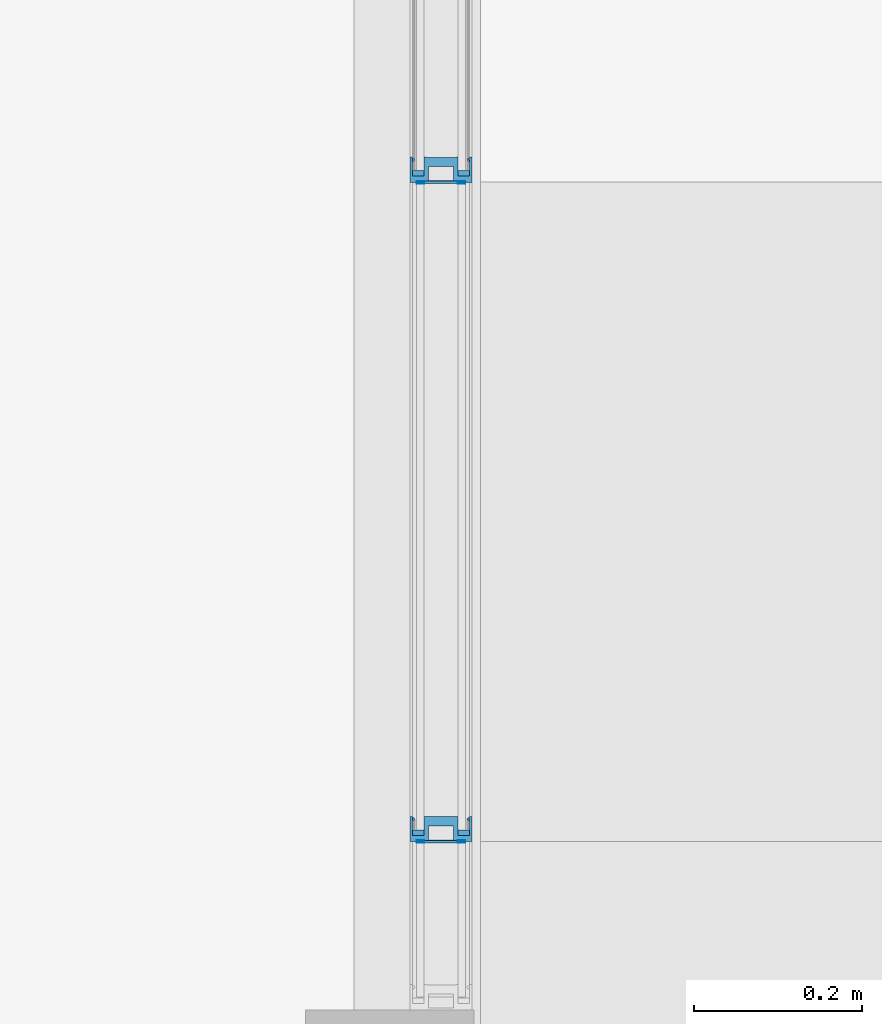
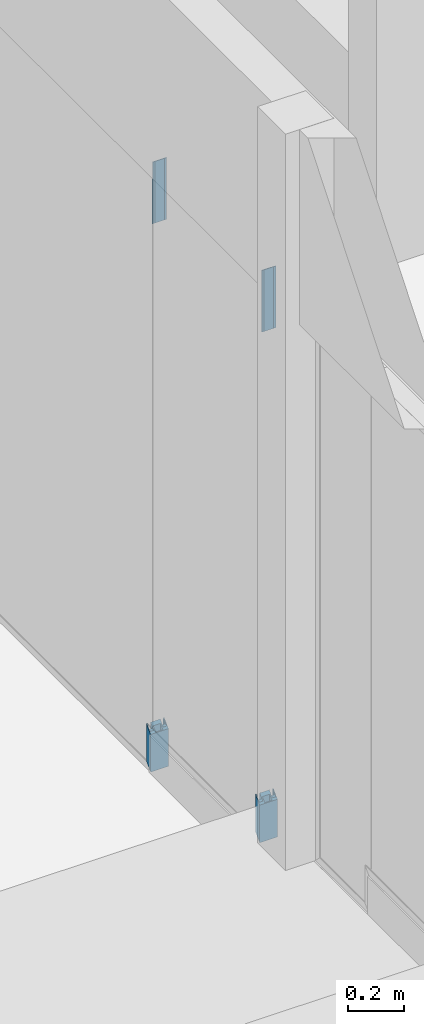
# One storey, part 22 of 65: 8 building element parts, 5 elements without a shape of their own.
"""IFC2X3 building model written with IfcOpenShell, lengths in millimetres."""

from ifc_helpers import new_model, entity, si_unit, converted_unit, derived_unit, money_unit, direction, frame, origin_with_axes, place, context, subcontext, project, spatial, faceted_brep, source, transform, mapped, material, type_object, element, aggregate, save


model = new_model("IFC2X3")

# Units and contexts
model_context = context("Model", 3, precision=0.01, world=origin_with_axes(), true_north=direction((0.0, 1.0)))
body_context = subcontext(model_context, "Body", "Model", "MODEL_VIEW")
ifc_project = project(units=[si_unit("LENGTHUNIT", "METRE", prefix="MILLI"), si_unit("AREAUNIT", "SQUARE_METRE"), si_unit("VOLUMEUNIT", "CUBIC_METRE"), converted_unit("PLANEANGLEUNIT", "DEGREE", entity("IfcPlaneAngleMeasure", 0.0174532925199), si_unit("PLANEANGLEUNIT", "RADIAN"), dimensions=[0, 0, 0, 0, 0, 0, 0]), si_unit("SOLIDANGLEUNIT", "STERADIAN"), money_unit("EUR"), converted_unit("TIMEUNIT", "Year", entity("IfcTimeMeasure", 31556926.0), si_unit("TIMEUNIT", "SECOND"), dimensions=[0, 0, 1, 0, 0, 0, 0]), si_unit("MASSUNIT", "GRAM", prefix="KILO"), si_unit("THERMODYNAMICTEMPERATUREUNIT", "DEGREE_CELSIUS"), si_unit("LUMINOUSINTENSITYUNIT", "LUMEN"), si_unit("ENERGYUNIT", "JOULE", prefix="MEGA"), derived_unit("THERMALCONDUCTANCEUNIT", [(si_unit("POWERUNIT", "WATT"), 1), (si_unit("LENGTHUNIT", "METRE"), -1), (si_unit("THERMODYNAMICTEMPERATUREUNIT", "KELVIN"), -1)]), derived_unit("SPECIFICHEATCAPACITYUNIT", [(si_unit("ENERGYUNIT", "JOULE"), 1), (si_unit("MASSUNIT", "GRAM", prefix="KILO"), -1), (si_unit("THERMODYNAMICTEMPERATUREUNIT", "KELVIN"), -1)]), derived_unit("MASSDENSITYUNIT", [(si_unit("MASSUNIT", "GRAM", prefix="KILO"), 1), (si_unit("VOLUMEUNIT", "CUBIC_METRE"), -1)])], contexts=[model_context])

# Site, building, storey
site_placement = place(None, origin_with_axes())
site = spatial("IfcSite", under=ifc_project, at=site_placement, Name="Puškini 31, Narva", CompositionType="ELEMENT")
building_placement = place(site_placement, origin_with_axes())
building = spatial("IfcBuilding", under=site, at=building_placement, Name="Narva Riigigümnaasium", CompositionType="ELEMENT")
storey_placement = place(building_placement, frame((0.0, 0.0, -1320.0), z_axis=(0.0, 0.0, 1.0), x_axis=(1.0, 0.0, 0.0)))
storey = spatial("IfcBuildingStorey", under=building, at=storey_placement, Name="1.korrus -1.32", CompositionType="ELEMENT", Elevation=-1320.0)

# Curtain wall, members, building element parts
curtain_wall_type = type_object("IfcCurtainWallType", Name="Curtain Wall Type", PredefinedType="NOTDEFINED")
curtain_wall_placement = place(storey_placement, frame((30362.9999988, 164066.428557, -5.96047033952e-06), z_axis=(0.0, 0.0, 1.0), x_axis=(1.0, 0.0, 0.0)))
curtain_wall = element("IfcCurtainWall", 1, at=curtain_wall_placement, inside=storey, type_object=curtain_wall_type, Name="G-SKLF-04")
member_type_1 = type_object("IfcMemberType", Name="30 x 37", PredefinedType="MULLION")
member_1_placement = place(curtain_wall_placement, frame((0.0, 616.37144197, 0.0), z_axis=(0.0, 0.0, 1.0), x_axis=(0.0, -1.0, 0.0)))
member_1 = element("IfcMember", 2, at=member_1_placement, type_object=member_type_1, Name="G-SKLF-15-klasidevaheline tihend", ObjectType="MULLION")
ifc_material_1 = material(Name="Klaasvill")
shared_shape_1 = source(origin_with_axes(), body_context, "Body", "Brep", [
    faceted_brep([(-7.49999990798, 20.000000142, 7.49999990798), (-7.49999990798, 20.000000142, 172.500004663), (-13.8499999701, 20.000000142, 178.850004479), (-13.8499999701, 20.000000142, 13.8499999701), (-7.49999990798, 34.0161444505, 7.49999990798), (-7.49999990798, 34.0161444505, 172.500004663), (-13.8499999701, 34.0161444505, 178.850004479), (-13.8499999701, 34.0161444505, 13.8499999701)], [[[0, 1, 2, 3]], [[4, 5, 1, 0]], [[2, 1, 5, 6]], [[3, 2, 6, 7]], [[3, 7, 4, 0]], [[7, 6, 5, 4]]]),
    faceted_brep([(-28.7655837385, 33.0385325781, 28.7655837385), (-28.7655837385, 33.0385325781, 193.765587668), (-24.987414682, 34.0161444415, 189.987418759), (-24.987414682, 34.0161444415, 24.987414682), (-28.4955493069, 32.0307503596, 28.4955493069), (-28.4955493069, 32.0307503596, 193.495553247), (-27.75780152, 31.2930025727, 192.757805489), (-26.7500193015, 31.0229681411, 191.75002331), (-25.742237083, 31.2930025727, 190.74224113), (-25.004489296, 32.0307503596, 190.004493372), (-24.7344548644, 33.0385325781, 189.734458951), (-24.7344548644, 33.0385325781, 24.7344548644), (-25.004489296, 32.0307503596, 25.004489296), (-25.742237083, 31.2930025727, 25.742237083), (-26.7500193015, 31.0229681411, 26.7500193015), (-27.75780152, 31.2930025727, 27.75780152)], [[[0, 1, 2, 3]], [[4, 5, 1, 0]], [[2, 1, 5, 6, 7, 8, 9, 10]], [[3, 2, 10, 11]], [[3, 11, 12, 13, 14, 15, 4, 0]], [[15, 6, 5, 4]], [[14, 7, 6, 15]], [[13, 8, 7, 14]], [[12, 9, 8, 13]], [[11, 10, 9, 12]]]),
    faceted_brep([(-13.8499999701, -34.0161445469, 13.8499999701), (-13.8499999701, -34.0161445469, 178.850004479), (-13.8499999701, -19.9999997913, 178.850004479), (-13.8499999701, -19.9999997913, 13.8499999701), (-7.49999990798, -34.0161445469, 7.49999990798), (-7.49999990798, -34.0161445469, 172.500004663), (-7.49999990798, -19.9999997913, 172.500004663), (-7.49999990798, -19.9999997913, 7.49999990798)], [[[0, 1, 2, 3]], [[4, 5, 1, 0]], [[2, 1, 5, 6]], [[3, 2, 6, 7]], [[3, 7, 4, 0]], [[7, 6, 5, 4]]]),
    faceted_brep([(-25.004489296, -32.0307503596, 25.004489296), (-25.004489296, -32.0307503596, 190.004493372), (-24.987414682, -34.0161444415, 189.987418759), (-24.987414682, -34.0161444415, 24.987414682), (-25.742237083, -31.2930025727, 25.742237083), (-25.742237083, -31.2930025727, 190.74224113), (-26.7500193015, -31.0229681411, 191.75002331), (-27.75780152, -31.2930025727, 192.757805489), (-28.4955493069, -32.0307503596, 193.495553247), (-28.7655837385, -33.0385325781, 193.765587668), (-28.5126239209, -34.0161444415, 193.512627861), (-28.5126239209, -34.0161444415, 28.5126239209), (-28.7655837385, -33.0385325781, 28.7655837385), (-28.4955493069, -32.0307503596, 28.4955493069), (-27.75780152, -31.2930025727, 27.75780152), (-26.7500193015, -31.0229681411, 26.7500193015)], [[[0, 1, 2, 3]], [[4, 5, 1, 0]], [[2, 1, 5, 6, 7, 8, 9, 10]], [[3, 2, 10, 11]], [[3, 11, 12, 13, 14, 15, 4, 0]], [[15, 6, 5, 4]], [[14, 7, 6, 15]], [[13, 8, 7, 14]], [[12, 9, 8, 13]], [[11, 10, 9, 12]]]),
])
building_element_part_1_placement = place(member_1_placement, origin_with_axes())
building_element_part_1 = element("IfcBuildingElementPart", 3, at=building_element_part_1_placement, material=ifc_material_1, Name="Klaasvill", context=body_context, shape_type="MappedRepresentation", body=[
    mapped(shared_shape_1, transform((0.0, 0.0, 0.0))),
])
member_2_placement = place(curtain_wall_placement, frame((0.0, -166.62855803, 165.000000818), z_axis=(0.0, 0.0, 1.0), x_axis=(0.0, -1.0, 0.0)))
member_2 = element("IfcMember", 4, at=member_2_placement, type_object=member_type_1, Name="G-SKLF-16-klasidevaheline tihend", ObjectType="MULLION")
building_element_part_2_placement = place(member_2_placement, origin_with_axes())
building_element_part_2 = element("IfcBuildingElementPart", 5, at=building_element_part_2_placement, material=ifc_material_1, Name="Klaasvill", context=body_context, shape_type="MappedRepresentation", body=[
    mapped(shared_shape_1, transform((0.0, 0.0, 0.0))),
])
ifc_material_2 = material(Name="Teras RAL7012")
shared_shape_2 = source(origin_with_axes(), body_context, "Body", "Brep", [
    faceted_brep([(-29.6000001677, -17.0000000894, 29.6000001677), (-29.6000001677, -17.0000000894, 194.600004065), (-29.6000001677, 17.0000000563, 194.600004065), (-29.6000001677, 17.0000000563, 29.6000001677), (3.28335792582e-07, -17.0000000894, -3.28335796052e-07), (3.28335792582e-07, -17.0000000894, 165.000004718), (3.28335792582e-07, 17.0000000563, 165.000004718), (-1.99999958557, -15.0000001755, 167.000004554), (-18.8000001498, -15.0000001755, 183.800004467), (-18.8000001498, 15.0000001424, 183.800004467), (-1.99999958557, 15.0000001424, 167.000004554), (3.28335792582e-07, 17.0000000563, -3.28335799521e-07), (-1.99999958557, -15.0000001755, 1.99999958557), (-1.99999958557, 15.0000001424, 1.99999958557), (-18.8000001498, 15.0000001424, 18.8000001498), (-18.8000001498, -15.0000001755, 18.8000001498)], [[[0, 1, 2, 3]], [[4, 5, 1, 0]], [[2, 1, 5, 6], [7, 8, 9, 10]], [[3, 2, 6, 11]], [[3, 11, 4, 0], [12, 13, 14, 15]], [[11, 6, 5, 4]], [[15, 8, 7, 12]], [[14, 9, 8, 15]], [[13, 10, 9, 14]], [[12, 7, 10, 13]]]),
    faceted_brep([(-29.6000001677, 17.0000000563, 29.6000001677), (-29.6000001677, 17.0000000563, 194.600004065), (-30.0000193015, 17.0, 195.000023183), (-30.0000193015, 17.0, 30.0000193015), (0.0, 17.0, 0.0), (0.0, 17.0, 165.000005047), (-30.0000193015, 20.0, 195.000023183), (0.0, 37.0, 165.000005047), (-30.0000193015, 37.0, 195.000023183), (-30.0000193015, 34.0161444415, 195.000023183), (-28.5126239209, 34.0161444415, 193.512627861), (-24.987414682, 34.0161444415, 189.987418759), (-13.8499999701, 34.0161444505, 178.850004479), (-7.49999999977, 34.0161444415, 172.500004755), (-7.49999999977, 20.0, 172.500004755), (-13.8499999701, 20.000000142, 178.850004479), (-30.0000193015, 20.0, 30.0000193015), (-13.8499999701, 20.000000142, 13.8499999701), (-7.49999999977, 20.0, 7.49999999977), (-7.49999999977, 34.0161444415, 7.49999999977), (-13.8499999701, 34.0161444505, 13.8499999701), (-24.987414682, 34.0161444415, 24.987414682), (-28.5126239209, 34.0161444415, 28.5126239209), (-30.0000193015, 34.0161444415, 30.0000193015), (-30.0000193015, 37.0, 30.0000193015), (0.0, 37.0, 0.0)], [[[0, 1, 2, 3]], [[1, 0, 4, 5]], [[6, 2, 1, 5, 7, 8, 9, 10, 11, 12, 13, 14, 15]], [[3, 2, 6, 16]], [[3, 16, 17, 18, 19, 20, 21, 22, 23, 24, 25, 4, 0]], [[5, 4, 25, 7]], [[24, 8, 7, 25]], [[23, 9, 8, 24]], [[9, 23, 22, 10]], [[21, 11, 10, 22]], [[20, 12, 11, 21]], [[12, 20, 19, 13]], [[18, 14, 13, 19]], [[14, 18, 17, 15]], [[16, 6, 15, 17]]]),
    faceted_brep([(-30.0000193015, -34.0161444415, 30.0000193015), (-30.0000193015, -34.0161444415, 195.000023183), (-28.5126239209, -34.0161444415, 193.512627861), (-28.5126239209, -34.0161444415, 28.5126239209), (-30.0000193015, -37.0, 30.0000193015), (-30.0000193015, -37.0, 195.000023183), (0.0, -37.0, 165.000005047), (0.0, -17.0, 165.000005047), (-29.6000001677, -17.0000000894, 194.600004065), (-30.0000193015, -17.0, 195.000023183), (-30.0000193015, -20.0, 195.000023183), (-13.8499999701, -19.9999997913, 178.850004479), (-7.49999999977, -20.0, 172.500004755), (-7.49999999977, -34.0161444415, 172.500004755), (-13.8499999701, -34.0161445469, 178.850004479), (-24.987414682, -34.0161444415, 189.987418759), (-24.987414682, -34.0161444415, 24.987414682), (-13.8499999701, -34.0161445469, 13.8499999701), (-7.49999999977, -34.0161444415, 7.49999999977), (-7.49999999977, -20.0, 7.49999999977), (-13.8499999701, -19.9999997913, 13.8499999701), (-30.0000193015, -20.0, 30.0000193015), (-30.0000193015, -17.0, 30.0000193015), (-29.6000001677, -17.0000000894, 29.6000001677), (0.0, -17.0, 0.0), (0.0, -37.0, 0.0)], [[[0, 1, 2, 3]], [[4, 5, 1, 0]], [[1, 5, 6, 7, 8, 9, 10, 11, 12, 13, 14, 15, 2]], [[15, 16, 3, 2]], [[4, 0, 3, 16, 17, 18, 19, 20, 21, 22, 23, 24, 25]], [[5, 4, 25, 6]], [[6, 25, 24, 7]], [[23, 8, 7, 24]], [[8, 23, 22, 9]], [[21, 10, 9, 22]], [[10, 21, 20, 11]], [[19, 12, 11, 20]], [[18, 13, 12, 19]], [[13, 18, 17, 14]], [[14, 17, 16, 15]]]),
])
building_element_part_3_placement = place(member_1_placement, origin_with_axes())
building_element_part_3 = element("IfcBuildingElementPart", 6, at=building_element_part_3_placement, material=ifc_material_2, Name="Teras RAL7012", context=body_context, shape_type="MappedRepresentation", body=[
    mapped(shared_shape_2, transform((0.0, 0.0, 0.0))),
])
aggregate(member_1, [building_element_part_1, building_element_part_3])
building_element_part_4_placement = place(member_2_placement, origin_with_axes())
building_element_part_4 = element("IfcBuildingElementPart", 7, at=building_element_part_4_placement, material=ifc_material_2, Name="Teras RAL7012", context=body_context, shape_type="MappedRepresentation", body=[
    mapped(shared_shape_2, transform((0.0, 0.0, 0.0))),
])
aggregate(member_2, [building_element_part_2, building_element_part_4])
member_type_2 = type_object("IfcMemberType", Name="Siseklaasfassaad - Raam n2htamatu 3 x 29", PredefinedType="MULLION")
member_3_placement = place(curtain_wall_placement, frame((0.0, -166.62855803, 2400.00000596), z_axis=(0.0, 0.0, 1.0), x_axis=(0.0, -1.0, 0.0)))
member_3 = element("IfcMember", 8, at=member_3_placement, type_object=member_type_2, Name="G-SKLF-04-klasidevaheline tihend", ObjectType="MULLION")
ifc_material_3 = material(Name="Klaas")
shared_shape_3 = source(origin_with_axes(), body_context, "Body", "Brep", [
    faceted_brep([(-1.4999861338, 20.0064497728, 0.0), (1.5000138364, 20.0064497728, 0.0), (1.5000138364, 20.0064497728, 269.999980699), (-1.4999861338, 20.0064497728, 269.999980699), (-1.4999861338, 29.0064496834, 0.0), (1.5000138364, 29.0064496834, 0.0), (1.5000138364, 29.0064496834, 269.999980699), (-1.4999861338, 29.0064496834, 269.999980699)], [[[0, 1, 2, 3]], [[0, 4, 5, 1]], [[1, 5, 6, 2]], [[3, 2, 6, 7]], [[4, 0, 3, 7]], [[5, 4, 7, 6]]]),
    faceted_brep([(-1.4999861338, -19.993550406, 0.0), (-1.4999861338, -28.9935503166, 0.0), (-1.4999861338, -28.9935503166, 269.999980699), (-1.4999861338, -19.993550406, 269.999980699), (1.5000138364, -19.993550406, 0.0), (1.5000138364, -28.9935503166, 0.0), (1.5000138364, -28.9935503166, 269.999980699), (1.5000138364, -19.993550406, 269.999980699)], [[[0, 1, 2, 3]], [[0, 4, 5, 1]], [[1, 5, 6, 2]], [[3, 2, 6, 7]], [[4, 0, 3, 7]], [[5, 4, 7, 6]]]),
])
building_element_part_5_placement = place(member_3_placement, origin_with_axes())
building_element_part_5 = element("IfcBuildingElementPart", 9, at=building_element_part_5_placement, material=ifc_material_3, Name="Klaas", context=body_context, shape_type="MappedRepresentation", body=[
    mapped(shared_shape_3, transform((0.0, 0.0, 0.0))),
])
member_4_placement = place(curtain_wall_placement, frame((0.0, 616.37144197, 2400.00000596), z_axis=(0.0, 0.0, 1.0), x_axis=(0.0, -1.0, 0.0)))
member_4 = element("IfcMember", 10, at=member_4_placement, type_object=member_type_2, Name="G-SKLF-04-klasidevaheline tihend", ObjectType="MULLION")
aggregate(curtain_wall, [member_3, member_4, member_1, member_2])
building_element_part_6_placement = place(member_4_placement, origin_with_axes())
building_element_part_6 = element("IfcBuildingElementPart", 11, at=building_element_part_6_placement, material=ifc_material_3, Name="Klaas", context=body_context, shape_type="MappedRepresentation", body=[
    mapped(shared_shape_3, transform((0.0, 0.0, 0.0))),
])
ifc_material_4 = material(Name="VKR-06_Õhkvahe")
shared_shape_4 = source(origin_with_axes(), body_context, "Body", "Brep", [
    faceted_brep([(-1.4999861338, 20.0064496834, 0.0), (-1.4999861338, -19.9935503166, 0.0), (-1.4999861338, -19.9935503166, 269.999980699), (-1.4999861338, 20.0064496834, 269.999980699), (1.5000138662, 20.0064496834, 0.0), (1.5000138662, -19.9935503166, 0.0), (1.5000138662, -19.9935503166, 269.999980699), (1.5000138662, 20.0064496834, 269.999980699)], [[[0, 1, 2, 3]], [[0, 4, 5, 1]], [[1, 5, 6, 2]], [[3, 2, 6, 7]], [[4, 0, 3, 7]], [[5, 4, 7, 6]]]),
])
building_element_part_7_placement = place(member_3_placement, origin_with_axes())
building_element_part_7 = element("IfcBuildingElementPart", 12, at=building_element_part_7_placement, material=ifc_material_4, Name="VKR-06_Õhkvahe", context=body_context, shape_type="MappedRepresentation", body=[
    mapped(shared_shape_4, transform((0.0, 0.0, 0.0))),
])
aggregate(member_3, [building_element_part_5, building_element_part_7])
building_element_part_8_placement = place(member_4_placement, origin_with_axes())
building_element_part_8 = element("IfcBuildingElementPart", 13, at=building_element_part_8_placement, material=ifc_material_4, Name="VKR-06_Õhkvahe", context=body_context, shape_type="MappedRepresentation", body=[
    mapped(shared_shape_4, transform((0.0, 0.0, 0.0))),
])
aggregate(member_4, [building_element_part_6, building_element_part_8])

save(model, "model.ifc")
